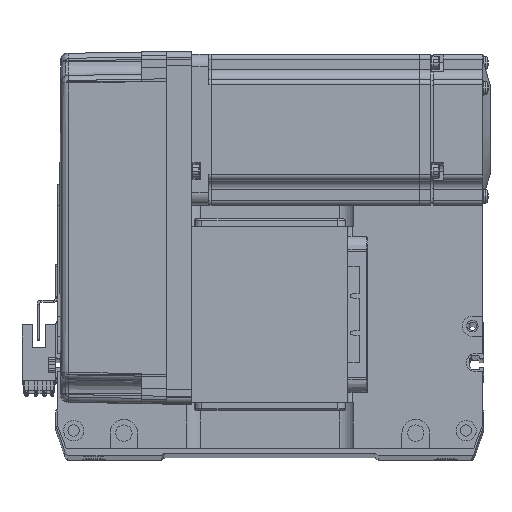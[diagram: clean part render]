
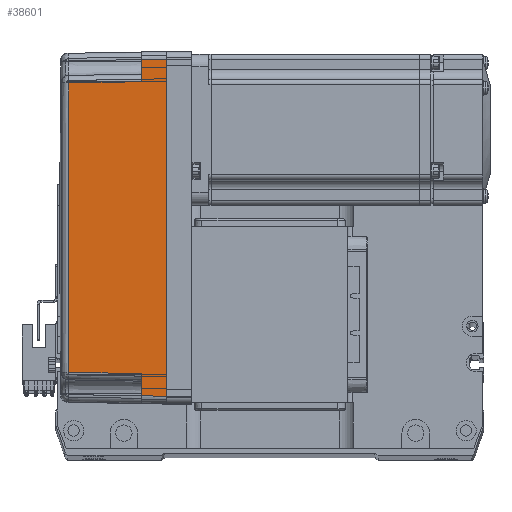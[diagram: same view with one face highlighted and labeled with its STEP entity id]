
A CAD part, top view. The second image highlights one B-rep face of the part: STEP entity #38601.
In plain terms, the highlighted planar face has unit normal (-0.018, 0, 1) as drawn and (0, 1, 0.017) by its records, which use the part's own axes.
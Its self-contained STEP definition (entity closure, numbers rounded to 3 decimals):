
#754 = FACE_OUTER_BOUND ( 'NONE', #5373, .T. ) ;
#841 = CARTESIAN_POINT ( 'NONE',  ( 67.001, 36.001, -0.052 ) ) ;
#1391 = VECTOR ( 'NONE', #8548, 1000. ) ;
#1557 = LINE ( 'NONE', #26043, #6855 ) ;
#1592 = CARTESIAN_POINT ( 'NONE',  ( -67., 36., 0. ) ) ;
#4042 = EDGE_CURVE ( 'NONE', #12265, #50058, #55633, .T. ) ;
#5064 = ORIENTED_EDGE ( 'NONE', *, *, #63024, .T. ) ;
#5086 = EDGE_CURVE ( 'NONE', #41537, #20606, #37322, .T. ) ;
#5154 = LINE ( 'NONE', #30390, #54685 ) ;
#5373 = EDGE_LOOP ( 'NONE', ( #25510, #47616, #28750, #34512, #5064, #33456, #16306, #39871 ) ) ;
#6855 = VECTOR ( 'NONE', #16036, 1000. ) ;
#8548 = DIRECTION ( 'NONE',  ( 0.017, -0.017, 1. ) ) ;
#8776 = CARTESIAN_POINT ( 'NONE',  ( -67., 36., 0. ) ) ;
#9024 = CARTESIAN_POINT ( 'NONE',  ( 57.495, 35.32, 38.985 ) ) ;
#9121 = CARTESIAN_POINT ( 'NONE',  ( -66.826, 35.825, 10. ) ) ;
#10543 = EDGE_CURVE ( 'NONE', #16218, #50058, #5154, .T. ) ;
#12265 = VERTEX_POINT ( 'NONE', #26402 ) ;
#13807 = VECTOR ( 'NONE', #58901, 1000. ) ;
#16036 = DIRECTION ( 'NONE',  ( 1., 0., 0. ) ) ;
#16218 = VERTEX_POINT ( 'NONE', #34094 ) ;
#16254 = DIRECTION ( 'NONE',  ( 0., -0.017, 1. ) ) ;
#16306 = ORIENTED_EDGE ( 'NONE', *, *, #4042, .F. ) ;
#19994 = VERTEX_POINT ( 'NONE', #9121 ) ;
#20606 = VERTEX_POINT ( 'NONE', #36400 ) ;
#20932 = EDGE_CURVE ( 'NONE', #19994, #41537, #40374, .T. ) ;
#21857 = EDGE_CURVE ( 'NONE', #27714, #12265, #1557, .T. ) ;
#24371 = CARTESIAN_POINT ( 'NONE',  ( 66.826, 35.825, 10. ) ) ;
#24401 = VECTOR ( 'NONE', #26422, 1000. ) ;
#25510 = ORIENTED_EDGE ( 'NONE', *, *, #57133, .T. ) ;
#26043 = CARTESIAN_POINT ( 'NONE',  ( 0., 36., 0. ) ) ;
#26402 = CARTESIAN_POINT ( 'NONE',  ( 67., 36., 0. ) ) ;
#26422 = DIRECTION ( 'NONE',  ( 0.017, -0.017, 1. ) ) ;
#27714 = VERTEX_POINT ( 'NONE', #1592 ) ;
#28685 = LINE ( 'NONE', #9024, #37831 ) ;
#28750 = ORIENTED_EDGE ( 'NONE', *, *, #5086, .T. ) ;
#30382 = LINE ( 'NONE', #8776, #1391 ) ;
#30390 = CARTESIAN_POINT ( 'NONE',  ( 70., 35.825, 10. ) ) ;
#30590 = CARTESIAN_POINT ( 'NONE',  ( 70., 35.825, 10. ) ) ;
#30987 = VERTEX_POINT ( 'NONE', #33746 ) ;
#33456 = ORIENTED_EDGE ( 'NONE', *, *, #10543, .T. ) ;
#33746 = CARTESIAN_POINT ( 'NONE',  ( 57.495, 35.32, 38.985 ) ) ;
#34094 = CARTESIAN_POINT ( 'NONE',  ( 58., 35.825, 10. ) ) ;
#34512 = ORIENTED_EDGE ( 'NONE', *, *, #46866, .T. ) ;
#34809 = PLANE ( 'NONE',  #46451 ) ;
#35824 = DIRECTION ( 'NONE',  ( 0., 1., 0.017 ) ) ;
#36400 = CARTESIAN_POINT ( 'NONE',  ( -57.495, 35.32, 38.985 ) ) ;
#37322 = LINE ( 'NONE', #50858, #24401 ) ;
#37831 = VECTOR ( 'NONE', #47945, 1000. ) ;
#38601 = ADVANCED_FACE ( 'NONE', ( #754 ), #34809, .T. ) ;
#38890 = CARTESIAN_POINT ( 'NONE',  ( -58., 35.825, 10. ) ) ;
#39871 = ORIENTED_EDGE ( 'NONE', *, *, #21857, .F. ) ;
#40374 = LINE ( 'NONE', #30590, #55535 ) ;
#40981 = CARTESIAN_POINT ( 'NONE',  ( 57.495, 35.32, 38.985 ) ) ;
#41537 = VERTEX_POINT ( 'NONE', #38890 ) ;
#46451 = AXIS2_PLACEMENT_3D ( 'NONE', #50493, #35824, #16254 ) ;
#46866 = EDGE_CURVE ( 'NONE', #20606, #30987, #51179, .T. ) ;
#47616 = ORIENTED_EDGE ( 'NONE', *, *, #20932, .T. ) ;
#47945 = DIRECTION ( 'NONE',  ( 0.017, 0.017, -1. ) ) ;
#50058 = VERTEX_POINT ( 'NONE', #24371 ) ;
#50493 = CARTESIAN_POINT ( 'NONE',  ( 70., 36., 0. ) ) ;
#50551 = CARTESIAN_POINT ( 'NONE',  ( -57.495, 35.32, 38.985 ) ) ;
#50858 = CARTESIAN_POINT ( 'NONE',  ( -58., 35.825, 10. ) ) ;
#51179 = B_SPLINE_CURVE_WITH_KNOTS ( 'NONE', 3,
 ( #50551, #54597, #55221, #40981 ),
 .UNSPECIFIED., .F., .F.,
 ( 4, 4 ),
 ( 0., 1. ),
 .UNSPECIFIED. ) ;
#54154 = DIRECTION ( 'NONE',  ( 1., 0., 0. ) ) ;
#54597 = CARTESIAN_POINT ( 'NONE',  ( -19.165, 35.316, 39.181 ) ) ;
#54685 = VECTOR ( 'NONE', #54154, 1000. ) ;
#55221 = CARTESIAN_POINT ( 'NONE',  ( 19.165, 35.316, 39.181 ) ) ;
#55230 = DIRECTION ( 'NONE',  ( 1., 0., 0. ) ) ;
#55535 = VECTOR ( 'NONE', #55230, 1000. ) ;
#55633 = LINE ( 'NONE', #841, #13807 ) ;
#57133 = EDGE_CURVE ( 'NONE', #27714, #19994, #30382, .T. ) ;
#58901 = DIRECTION ( 'NONE',  ( -0.017, -0.017, 1. ) ) ;
#63024 = EDGE_CURVE ( 'NONE', #30987, #16218, #28685, .T. ) ;
